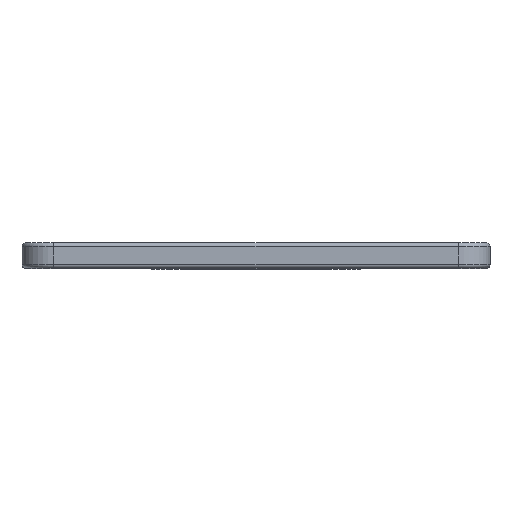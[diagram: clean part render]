
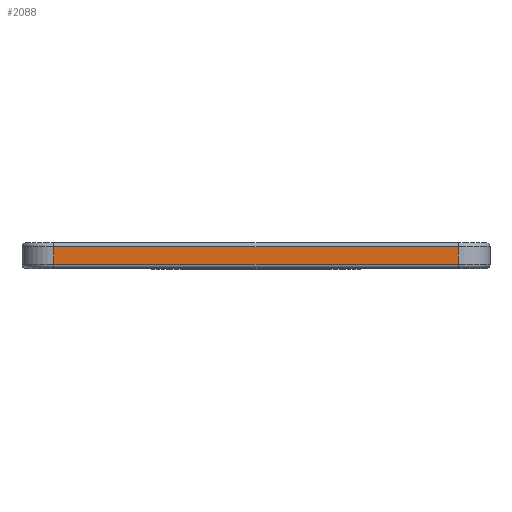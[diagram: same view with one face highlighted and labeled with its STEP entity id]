
A CAD part, top view. The second image highlights one B-rep face of the part: STEP entity #2088.
In plain terms, the highlighted planar face has unit normal (0, 0, 1).
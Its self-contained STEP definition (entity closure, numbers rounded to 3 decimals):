
#5 = ORIENTED_EDGE ( 'NONE', *, *, #1207, .F. ) ;
#85 = CARTESIAN_POINT ( 'NONE',  ( -21.308, 2., 68.673 ) ) ;
#104 = CARTESIAN_POINT ( 'NONE',  ( 10.692, 1.7, 68.673 ) ) ;
#208 = CARTESIAN_POINT ( 'NONE',  ( -21.308, 0.3, 68.673 ) ) ;
#226 = DIRECTION ( 'NONE',  ( 0., -1., 0. ) ) ;
#512 = VERTEX_POINT ( 'NONE', #1883 ) ;
#527 = LINE ( 'NONE', #1532, #2081 ) ;
#549 = DIRECTION ( 'NONE',  ( -1., 0., 0. ) ) ;
#696 = VERTEX_POINT ( 'NONE', #208 ) ;
#744 = VECTOR ( 'NONE', #226, 1000. ) ;
#748 = EDGE_CURVE ( 'NONE', #1016, #512, #1873, .T. ) ;
#833 = EDGE_LOOP ( 'NONE', ( #5, #1164, #1042, #1018 ) ) ;
#890 = PLANE ( 'NONE',  #2137 ) ;
#1016 = VERTEX_POINT ( 'NONE', #104 ) ;
#1018 = ORIENTED_EDGE ( 'NONE', *, *, #1998, .T. ) ;
#1027 = DIRECTION ( 'NONE',  ( -1., 0., 0. ) ) ;
#1042 = ORIENTED_EDGE ( 'NONE', *, *, #1442, .T. ) ;
#1164 = ORIENTED_EDGE ( 'NONE', *, *, #748, .T. ) ;
#1201 = DIRECTION ( 'NONE',  ( 0., 0., -1. ) ) ;
#1207 = EDGE_CURVE ( 'NONE', #1016, #2092, #1624, .T. ) ;
#1209 = CARTESIAN_POINT ( 'NONE',  ( 10.692, 2., 68.673 ) ) ;
#1220 = CARTESIAN_POINT ( 'NONE',  ( -21.308, 1.7, 68.673 ) ) ;
#1300 = VECTOR ( 'NONE', #1772, 1000. ) ;
#1322 = FACE_OUTER_BOUND ( 'NONE', #833, .T. ) ;
#1442 = EDGE_CURVE ( 'NONE', #512, #696, #1739, .T. ) ;
#1532 = CARTESIAN_POINT ( 'NONE',  ( 10.692, 0.3, 68.673 ) ) ;
#1624 = LINE ( 'NONE', #2073, #744 ) ;
#1739 = LINE ( 'NONE', #85, #1300 ) ;
#1772 = DIRECTION ( 'NONE',  ( 0., -1., 0. ) ) ;
#1867 = CARTESIAN_POINT ( 'NONE',  ( 10.692, 0.3, 68.673 ) ) ;
#1873 = LINE ( 'NONE', #1220, #2139 ) ;
#1883 = CARTESIAN_POINT ( 'NONE',  ( -21.308, 1.7, 68.673 ) ) ;
#1998 = EDGE_CURVE ( 'NONE', #696, #2092, #527, .T. ) ;
#2073 = CARTESIAN_POINT ( 'NONE',  ( 10.692, 2., 68.673 ) ) ;
#2081 = VECTOR ( 'NONE', #2175, 1000. ) ;
#2088 = ADVANCED_FACE ( 'NONE', ( #1322 ), #890, .F. ) ;
#2092 = VERTEX_POINT ( 'NONE', #1867 ) ;
#2137 = AXIS2_PLACEMENT_3D ( 'NONE', #1209, #1201, #1027 ) ;
#2139 = VECTOR ( 'NONE', #549, 1000. ) ;
#2175 = DIRECTION ( 'NONE',  ( 1., 0., 0. ) ) ;
